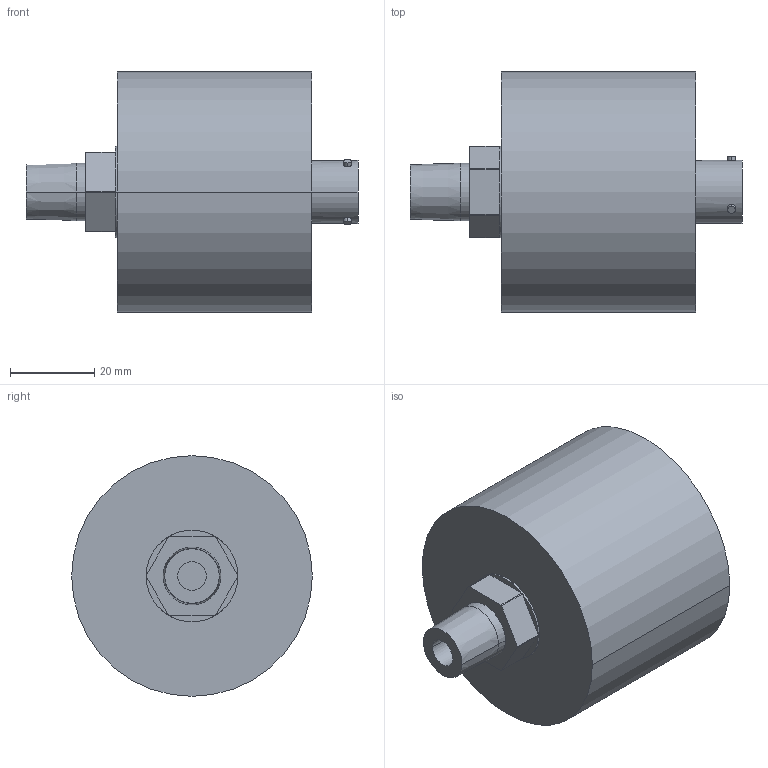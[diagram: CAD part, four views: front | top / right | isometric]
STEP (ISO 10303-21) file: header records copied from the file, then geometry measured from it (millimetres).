
FILE_DESCRIPTION(('STEP AP214'),'1');
FILE_NAME('burster_8267-4200_66y4xepvnnllkm43gnscu0p8r.stp','2017-04-19T20:01:50',('TraceParts'),('TraceParts S.A.'),'Spatial InterOp 3D',' ',' ');
FILE_SCHEMA(('automotive_design'));
Length unit declared in the file: millimetre
Products named in the file (1): burster_8267-4200_66y4xepvnnllkm43gnscu0p8r
Bounding box: 78.9 x 57.2 x 57.2 mm (x, y, z)
Volume: 123133.9 mm3; surface area: 16015.7 mm2
Topology: 1 solids, 1 shells, 60 faces, 133 edges, 88 vertices
Faces by surface type: cylinder 30, plane 28, cone 2
Entity records: 2313 total; most frequent: CARTESIAN_POINT 418, DIRECTION 315, ORIENTED_EDGE 266, EDGE_CURVE 133, AXIS2_PLACEMENT_3D 129, VERTEX_POINT 88, EDGE_LOOP 73, CIRCLE 68
